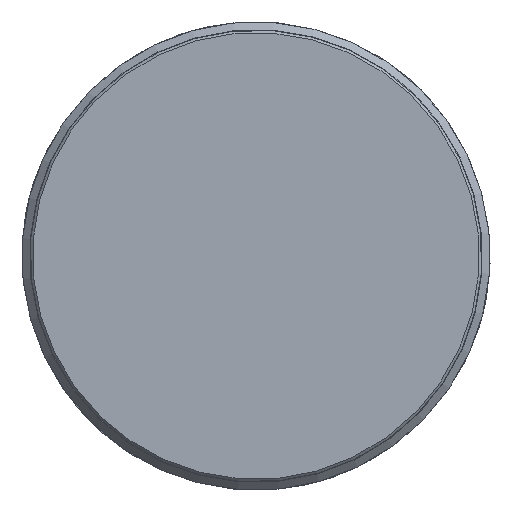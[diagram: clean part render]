
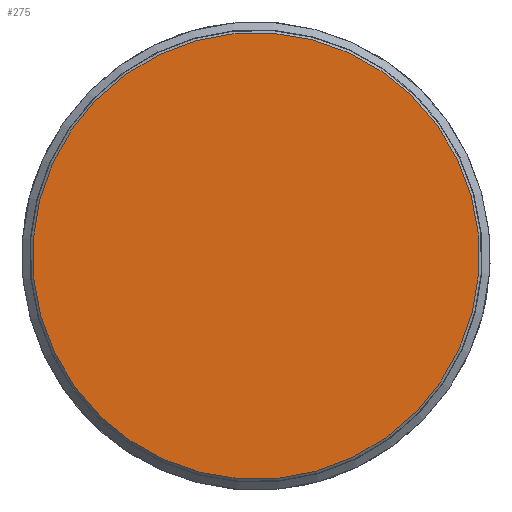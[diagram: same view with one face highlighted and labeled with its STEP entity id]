
A CAD part, left-side view. The second image highlights one B-rep face of the part: STEP entity #275.
In plain terms, the highlighted planar face has unit normal (-1, 0, 0).
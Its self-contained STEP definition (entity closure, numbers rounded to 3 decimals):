
#275=ADVANCED_FACE('',(#443),#321,.T.);
#321=PLANE('',#1144);
#443=FACE_OUTER_BOUND('',#546,.T.);
#546=EDGE_LOOP('',(#713));
#713=ORIENTED_EDGE('',*,*,#978,.T.);
#880=VERTEX_POINT('',#3050);
#978=EDGE_CURVE('',#880,#880,#1056,.T.);
#1056=CIRCLE('',#1143,34.544);
#1143=AXIS2_PLACEMENT_3D('',#3049,#1339,#1340);
#1144=AXIS2_PLACEMENT_3D('',#3051,#1341,#1342);
#1339=DIRECTION('',(-1.,0.,0.));
#1340=DIRECTION('',(0.,0.699,-0.715));
#1341=DIRECTION('',(-1.,0.,0.));
#1342=DIRECTION('',(0.,0.699,-0.715));
#3049=CARTESIAN_POINT('',(-165.507,0.,0.));
#3050=CARTESIAN_POINT('',(-165.507,24.145,-24.704));
#3051=CARTESIAN_POINT('',(-165.507,-15.903,-15.543));
